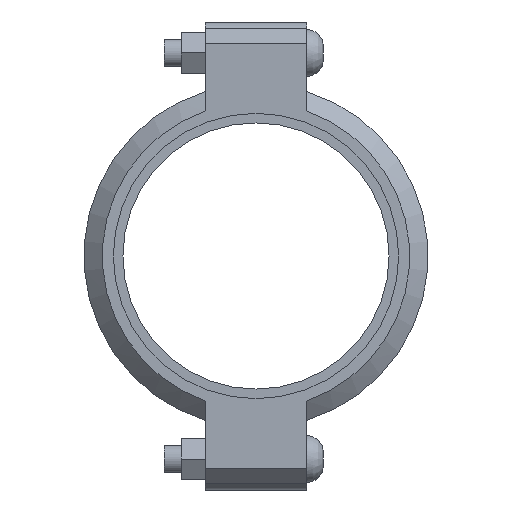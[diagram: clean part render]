
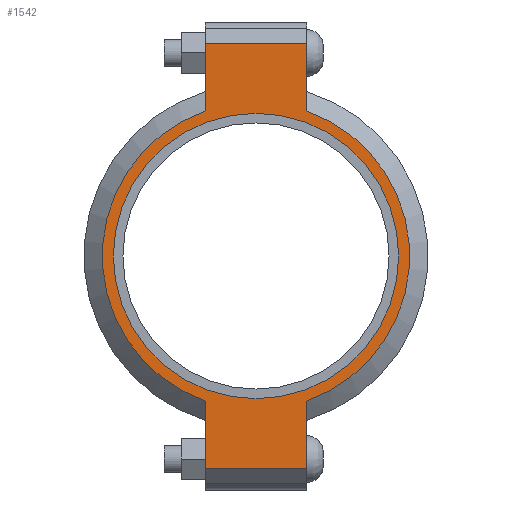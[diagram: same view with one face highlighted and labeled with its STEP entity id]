
A CAD part, left-side view. The second image highlights one B-rep face of the part: STEP entity #1542.
In plain terms, the highlighted planar face has unit normal (-1, 0, 0) as drawn and (0, 0, 1) by its records, which use the part's own axes.
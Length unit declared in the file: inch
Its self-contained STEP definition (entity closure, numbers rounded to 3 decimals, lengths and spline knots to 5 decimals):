
#166=LINE('',#2700,#259);
#174=LINE('',#2736,#267);
#181=LINE('',#2757,#274);
#190=LINE('',#2789,#283);
#191=LINE('',#2793,#284);
#192=LINE('',#2795,#285);
#259=VECTOR('',#2204,0.3937);
#267=VECTOR('',#2220,0.3937);
#274=VECTOR('',#2239,0.3937);
#283=VECTOR('',#2264,0.3937);
#284=VECTOR('',#2269,0.3937);
#285=VECTOR('',#2270,0.3937);
#341=FACE_BOUND('',#519,.T.);
#413=FACE_OUTER_BOUND('',#518,.T.);
#518=EDGE_LOOP('',(#1283,#1284,#1285,#1286,#1287,#1288,#1289,#1290));
#519=EDGE_LOOP('',(#1291));
#591=CIRCLE('',#1770,3.25);
#617=CIRCLE('',#1829,3.5);
#618=CIRCLE('',#1830,3.5);
#683=VERTEX_POINT('',#2516);
#726=VERTEX_POINT('',#2697);
#727=VERTEX_POINT('',#2699);
#738=VERTEX_POINT('',#2731);
#739=VERTEX_POINT('',#2735);
#746=VERTEX_POINT('',#2754);
#747=VERTEX_POINT('',#2756);
#757=VERTEX_POINT('',#2792);
#758=VERTEX_POINT('',#2794);
#839=EDGE_CURVE('',#683,#683,#591,.T.);
#900=EDGE_CURVE('',#727,#726,#166,.T.);
#914=EDGE_CURVE('',#739,#738,#174,.T.);
#924=EDGE_CURVE('',#747,#746,#181,.T.);
#939=EDGE_CURVE('',#739,#726,#190,.T.);
#940=EDGE_CURVE('',#738,#747,#617,.T.);
#941=EDGE_CURVE('',#757,#746,#191,.T.);
#942=EDGE_CURVE('',#757,#758,#192,.T.);
#943=EDGE_CURVE('',#758,#727,#618,.T.);
#1283=ORIENTED_EDGE('',*,*,#939,.F.);
#1284=ORIENTED_EDGE('',*,*,#914,.T.);
#1285=ORIENTED_EDGE('',*,*,#940,.T.);
#1286=ORIENTED_EDGE('',*,*,#924,.T.);
#1287=ORIENTED_EDGE('',*,*,#941,.F.);
#1288=ORIENTED_EDGE('',*,*,#942,.T.);
#1289=ORIENTED_EDGE('',*,*,#943,.T.);
#1290=ORIENTED_EDGE('',*,*,#900,.T.);
#1291=ORIENTED_EDGE('',*,*,#839,.T.);
#1384=PLANE('',#1828);
#1542=ADVANCED_FACE('',(#413,#341),#1384,.T.);
#1770=AXIS2_PLACEMENT_3D('',#2518,#2080,#2081);
#1828=AXIS2_PLACEMENT_3D('',#2790,#2265,#2266);
#1829=AXIS2_PLACEMENT_3D('',#2791,#2267,#2268);
#1830=AXIS2_PLACEMENT_3D('',#2796,#2271,#2272);
#2080=DIRECTION('center_axis',(0.,0.,-1.));
#2081=DIRECTION('ref_axis',(1.,0.,0.));
#2204=DIRECTION('',(1.,0.,0.));
#2220=DIRECTION('',(-1.,0.,0.));
#2239=DIRECTION('',(-1.,0.,0.));
#2264=DIRECTION('',(0.,-1.,0.));
#2265=DIRECTION('center_axis',(0.,0.,1.));
#2266=DIRECTION('ref_axis',(-1.,0.,0.));
#2267=DIRECTION('center_axis',(0.,0.,1.));
#2268=DIRECTION('ref_axis',(1.,0.,0.));
#2269=DIRECTION('',(0.,1.,0.));
#2270=DIRECTION('',(1.,0.,0.));
#2271=DIRECTION('center_axis',(0.,0.,1.));
#2272=DIRECTION('ref_axis',(1.,0.,0.));
#2516=CARTESIAN_POINT('',(-3.25,0.,1.04));
#2518=CARTESIAN_POINT('Origin',(0.,0.,1.04));
#2697=CARTESIAN_POINT('',(4.83,-1.156,1.04));
#2699=CARTESIAN_POINT('',(3.30358,-1.156,1.04));
#2700=CARTESIAN_POINT('',(5.33,-1.156,1.04));
#2731=CARTESIAN_POINT('',(3.30358,1.156,1.04));
#2735=CARTESIAN_POINT('',(4.83,1.156,1.04));
#2736=CARTESIAN_POINT('',(-5.33,1.156,1.04));
#2754=CARTESIAN_POINT('',(-4.83,1.156,1.04));
#2756=CARTESIAN_POINT('',(-3.30358,1.156,1.04));
#2757=CARTESIAN_POINT('',(-5.33,1.156,1.04));
#2789=CARTESIAN_POINT('',(4.83,-0.578,1.04));
#2790=CARTESIAN_POINT('Origin',(0.,0.,
1.04));
#2791=CARTESIAN_POINT('Origin',(0.,0.,1.04));
#2792=CARTESIAN_POINT('',(-4.83,-1.156,1.04));
#2793=CARTESIAN_POINT('',(-4.83,0.578,1.04));
#2794=CARTESIAN_POINT('',(-3.30358,-1.156,1.04));
#2795=CARTESIAN_POINT('',(5.33,-1.156,1.04));
#2796=CARTESIAN_POINT('Origin',(0.,0.,1.04));
